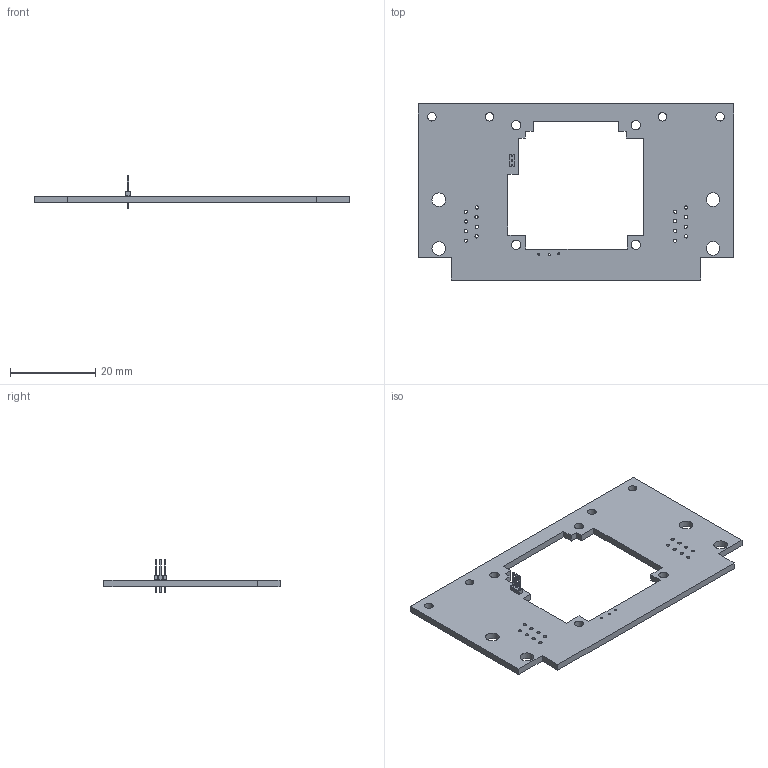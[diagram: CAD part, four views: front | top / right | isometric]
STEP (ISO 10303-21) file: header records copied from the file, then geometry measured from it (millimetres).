
FILE_DESCRIPTION(('KiCad electronic assembly'),'2;1');
FILE_NAME('camera ethernet pcb.step','2024-08-24T14:08:54',('Pcbnew'),( 'Kicad'),'Open CASCADE STEP processor 7.7','KiCad to STEP converter' ,'Unknown');
FILE_SCHEMA(('AUTOMOTIVE_DESIGN { 1 0 10303 214 1 1 1 1 }'));
Length unit declared in the file: millimetre
Products named in the file (4): camera ethernet pcb 1; PinHeader_1x03_P1.00mm_Vertical; PinHeader_1x03_P100mm_Vertical; camera ethernet pcb_PCB
Assembly tree (3 placements, depth 3):
  camera ethernet pcb 1
    PinHeader_1x03_P1.00mm_Vertical
      PinHeader_1x03_P100mm_Vertical
    camera ethernet pcb_PCB
Bounding box: 74 x 41.25 x 7.8 mm (x, y, z)
Volume: 3261 mm3; surface area: 4901.5 mm2
Topology: 2 solids, 2 shells, 139 faces, 363 edges, 234 vertices
Faces by surface type: plane 105, cylinder 34
Full cylindrical faces by diameter (mm): 0.5 x6, 0.762 x16, 2 x4, 2.2 x4, 3.2 x4
Entity records: 4959 total; most frequent: CARTESIAN_POINT 740, ORIENTED_EDGE 726, DIRECTION 717, EDGE_CURVE 363, LINE 295, VECTOR 295, VERTEX_POINT 234, FACE_BOUND 215
